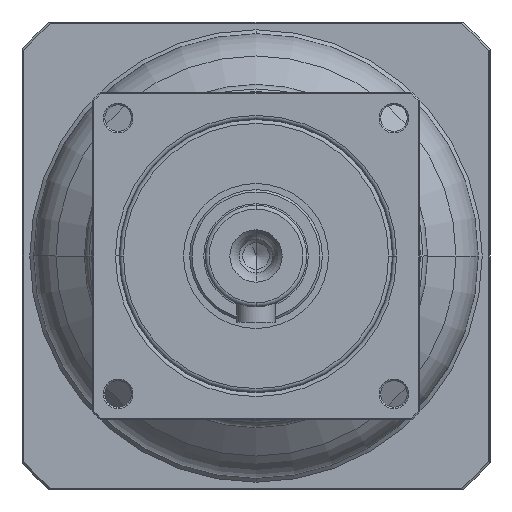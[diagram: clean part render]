
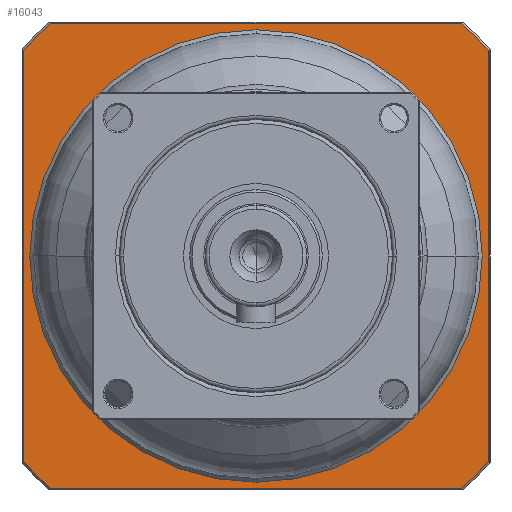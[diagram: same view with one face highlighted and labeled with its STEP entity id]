
A CAD part, left-side view. The second image highlights one B-rep face of the part: STEP entity #16043.
In plain terms, the highlighted planar face has unit normal (-1, 0, 0) as drawn and (0, 0, -1) by its records, which use the part's own axes.
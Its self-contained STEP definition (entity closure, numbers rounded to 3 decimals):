
#14917=CARTESIAN_POINT('',(0.,0.,
2.));
#14918=DIRECTION('',(0.,0.,-1.));
#14919=DIRECTION('',(0.,-1.,0.));
#14920=AXIS2_PLACEMENT_3D('',#14917,#14918,#14919);
#14922=CARTESIAN_POINT('',(0.,0.,
2.));
#14923=DIRECTION('',(0.,0.,-1.));
#14924=DIRECTION('',(0.,1.,0.));
#14925=AXIS2_PLACEMENT_3D('',#14922,#14923,#14924);
#14927=CARTESIAN_POINT('',(0.,0.,2.));
#14928=DIRECTION('',(0.,0.,1.));
#14929=DIRECTION('',(-0.749,-0.663,0.));
#14930=AXIS2_PLACEMENT_3D('',#14927,#14928,#14929);
#14932=DIRECTION('',(1.,0.,0.));
#14933=VECTOR('',#14932,52.764);
#14934=CARTESIAN_POINT('',(-26.382,-29.8,
2.));
#14935=LINE('',#14934,#14933);
#14936=CARTESIAN_POINT('',(0.,0.,2.));
#14937=DIRECTION('',(0.,0.,1.));
#14938=DIRECTION('',(0.663,-0.749,0.));
#14939=AXIS2_PLACEMENT_3D('',#14936,#14937,#14938);
#14941=DIRECTION('',(0.,1.,0.));
#14942=VECTOR('',#14941,52.764);
#14943=CARTESIAN_POINT('',(29.8,-26.382,
2.));
#14944=LINE('',#14943,#14942);
#14945=CARTESIAN_POINT('',(0.,0.,2.));
#14946=DIRECTION('',(0.,0.,1.));
#14947=DIRECTION('',(0.749,0.663,0.));
#14948=AXIS2_PLACEMENT_3D('',#14945,#14946,#14947);
#14950=DIRECTION('',(-1.,0.,0.));
#14951=VECTOR('',#14950,52.764);
#14952=CARTESIAN_POINT('',(26.382,29.8,2.));
#14953=LINE('',#14952,#14951);
#14954=CARTESIAN_POINT('',(0.,0.,2.));
#14955=DIRECTION('',(0.,0.,1.));
#14956=DIRECTION('',(-0.663,0.749,0.));
#14957=AXIS2_PLACEMENT_3D('',#14954,#14955,#14956);
#14959=DIRECTION('',(0.,-1.,0.));
#14960=VECTOR('',#14959,52.764);
#14961=CARTESIAN_POINT('',(-29.8,26.382,
2.));
#14962=LINE('',#14961,#14960);
#15698=CARTESIAN_POINT('',(0.,-29.,2.));
#15699=CARTESIAN_POINT('',(0.,29.,2.));
#15700=VERTEX_POINT('',#15698);
#15701=VERTEX_POINT('',#15699);
#15770=CARTESIAN_POINT('',(-29.8,-26.382,2.));
#15771=CARTESIAN_POINT('',(-26.382,-29.8,2.));
#15772=VERTEX_POINT('',#15770);
#15773=VERTEX_POINT('',#15771);
#15778=CARTESIAN_POINT('',(26.382,-29.8,
2.));
#15779=VERTEX_POINT('',#15778);
#15782=CARTESIAN_POINT('',(29.8,-26.382,2.));
#15783=VERTEX_POINT('',#15782);
#15786=CARTESIAN_POINT('',(29.8,26.382,2.));
#15787=VERTEX_POINT('',#15786);
#15790=CARTESIAN_POINT('',(26.382,29.8,2.));
#15791=VERTEX_POINT('',#15790);
#15794=CARTESIAN_POINT('',(-26.382,29.8,
2.));
#15795=VERTEX_POINT('',#15794);
#15800=CARTESIAN_POINT('',(-29.8,26.382,2.));
#15801=VERTEX_POINT('',#15800);
#16015=CARTESIAN_POINT('',(0.,0.,2.));
#16016=DIRECTION('',(0.,0.,1.));
#16017=DIRECTION('',(0.,1.,0.));
#16018=AXIS2_PLACEMENT_3D('',#16015,#16016,#16017);
#16019=PLANE('',#16018);
#16021=ORIENTED_EDGE('',*,*,#16020,.T.);
#16023=ORIENTED_EDGE('',*,*,#16022,.T.);
#16025=ORIENTED_EDGE('',*,*,#16024,.T.);
#16027=ORIENTED_EDGE('',*,*,#16026,.T.);
#16029=ORIENTED_EDGE('',*,*,#16028,.T.);
#16031=ORIENTED_EDGE('',*,*,#16030,.T.);
#16033=ORIENTED_EDGE('',*,*,#16032,.T.);
#16035=ORIENTED_EDGE('',*,*,#16034,.T.);
#16036=EDGE_LOOP('',(#16021,#16023,#16025,#16027,#16029,#16031,#16033,#16035));
#16037=FACE_OUTER_BOUND('',#16036,.F.);
#16039=ORIENTED_EDGE('',*,*,#16038,.T.);
#16040=ORIENTED_EDGE('',*,*,#16005,.T.);
#16041=EDGE_LOOP('',(#16039,#16040));
#16042=FACE_BOUND('',#16041,.F.);
#16043=ADVANCED_FACE('',(#16037,#16042),#16019,.F.);
#14921=CIRCLE('',#14920,29.);
#14926=CIRCLE('',#14925,29.);
#14931=CIRCLE('',#14930,39.8);
#14940=CIRCLE('',#14939,39.8);
#14949=CIRCLE('',#14948,39.8);
#14958=CIRCLE('',#14957,39.8);
#16005=EDGE_CURVE('',#15701,#15700,#14926,.T.);
#16020=EDGE_CURVE('',#15772,#15773,#14931,.T.);
#16022=EDGE_CURVE('',#15773,#15779,#14935,.T.);
#16024=EDGE_CURVE('',#15779,#15783,#14940,.T.);
#16026=EDGE_CURVE('',#15783,#15787,#14944,.T.);
#16028=EDGE_CURVE('',#15787,#15791,#14949,.T.);
#16030=EDGE_CURVE('',#15791,#15795,#14953,.T.);
#16032=EDGE_CURVE('',#15795,#15801,#14958,.T.);
#16034=EDGE_CURVE('',#15801,#15772,#14962,.T.);
#16038=EDGE_CURVE('',#15700,#15701,#14921,.T.);
